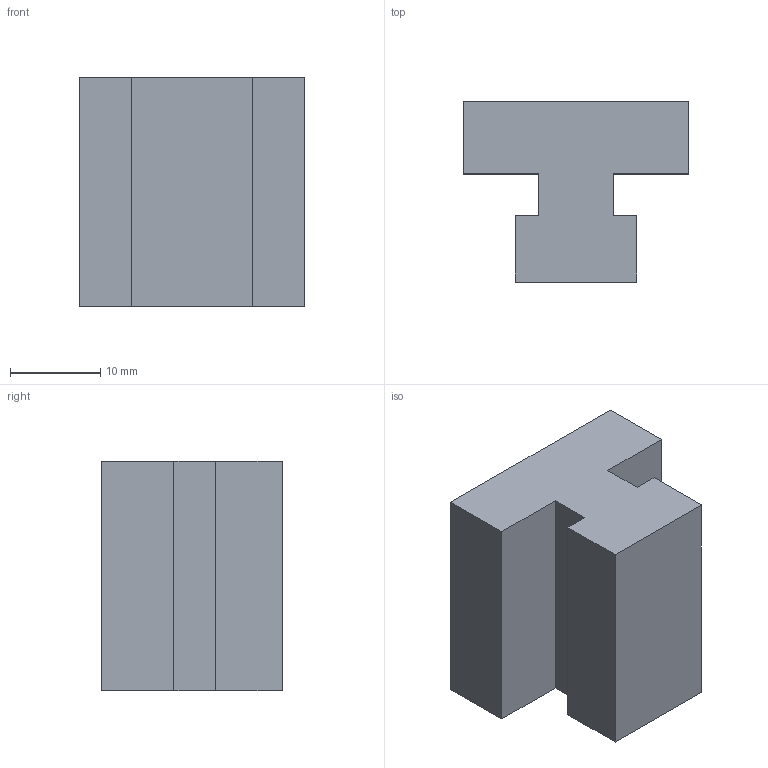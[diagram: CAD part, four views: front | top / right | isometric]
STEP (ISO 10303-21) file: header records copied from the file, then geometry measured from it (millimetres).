
FILE_DESCRIPTION((''),'2;1');
FILE_NAME('C:\Documents and Settings\Administrator\My Documents\Andys Backup Data\STEP LIBRARIES\MINITEC STEP LIBRARIES\EDGE COVER SLIDE AND SEALING PROFILES\22.1088 SLIDE BAR 8.stp','2008-10-27T15:16:36',('Administrator'),(''),'Autodesk Inventor 2009','Autodesk Inventor 2009','');
FILE_SCHEMA(('AUTOMOTIVE_DESIGN { 1 0 10303 214 1 1 1 1 }'));
Length unit declared in the file: inch
Products named in the file (1): 22.1088 SLIDE BAR 8
Bounding box: 25 x 20 x 25.4 mm (x, y, z)
Volume: 8575.5 mm3; surface area: 3230.5 mm2
Topology: 1 solids, 1 shells, 14 faces, 36 edges, 24 vertices
Faces by surface type: plane 14
Entity records: 448 total; most frequent: CARTESIAN_POINT 75, ORIENTED_EDGE 72, DIRECTION 66, VECTOR 36, LINE 36, EDGE_CURVE 36, VERTEX_POINT 24, AXIS2_PLACEMENT_3D 15
